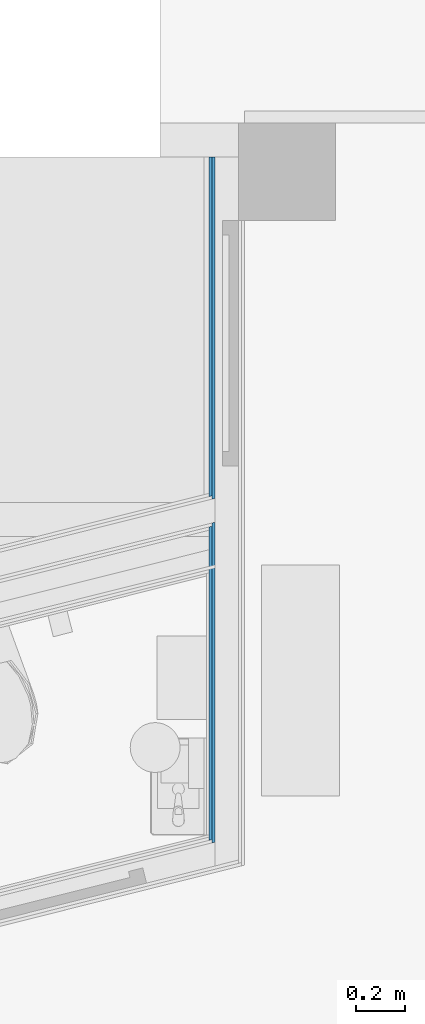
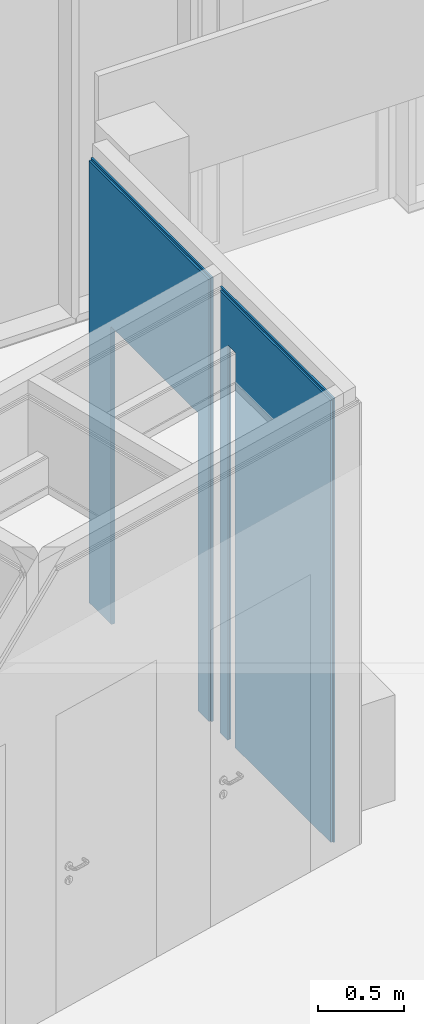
# One storey, part 57 of 153: 2 building element parts, 1 opening, 1 element without a shape of its own.
"""IFC2X3 building model written with IfcOpenShell, lengths in millimetres."""

from ifc_helpers import new_model, entity, si_unit, converted_unit, derived_unit, money_unit, direction, frame, origin_with_axes, place, context, subcontext, project, spatial, faceted_brep, material, type_object, element, aggregate, save


model = new_model("IFC2X3")

# Units and contexts
model_context = context("Model", 3, precision=0.01, world=origin_with_axes(), true_north=direction((0.0, 1.0)))
body_context = subcontext(model_context, "Body", "Model", "MODEL_VIEW")
ifc_project = project(units=[si_unit("LENGTHUNIT", "METRE", prefix="MILLI"), si_unit("AREAUNIT", "SQUARE_METRE"), si_unit("VOLUMEUNIT", "CUBIC_METRE"), converted_unit("PLANEANGLEUNIT", "DEGREE", entity("IfcPlaneAngleMeasure", 0.0174532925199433), si_unit("PLANEANGLEUNIT", "RADIAN"), dimensions=[0, 0, 0, 0, 0, 0, 0]), money_unit("EUR"), converted_unit("TIMEUNIT", "Year", entity("IfcTimeMeasure", 31557600.0), si_unit("TIMEUNIT", "SECOND"), dimensions=[0, 0, 1, 0, 0, 0, 0]), si_unit("MASSUNIT", "GRAM", prefix="KILO"), si_unit("THERMODYNAMICTEMPERATUREUNIT", "DEGREE_CELSIUS"), si_unit("LUMINOUSINTENSITYUNIT", "LUMEN"), si_unit("ENERGYUNIT", "JOULE", prefix="MEGA"), derived_unit("THERMALCONDUCTANCEUNIT", [(si_unit("POWERUNIT", "WATT"), 1), (si_unit("LENGTHUNIT", "METRE"), -1), (si_unit("THERMODYNAMICTEMPERATUREUNIT", "KELVIN"), -1)]), derived_unit("SPECIFICHEATCAPACITYUNIT", [(si_unit("ENERGYUNIT", "JOULE"), 1), (si_unit("MASSUNIT", "GRAM", prefix="KILO"), -1), (si_unit("THERMODYNAMICTEMPERATUREUNIT", "KELVIN"), -1)]), derived_unit("MASSDENSITYUNIT", [(si_unit("MASSUNIT", "GRAM", prefix="KILO"), 1), (si_unit("VOLUMEUNIT", "CUBIC_METRE"), -1)])], contexts=[model_context])

# Site, building, storey
site_placement = place(None, frame((0.0, 0.0, 8650.0), z_axis=(0.0, 0.0, 1.0), x_axis=(1.0, 0.0, 0.0)))
site = spatial("IfcSite", under=ifc_project, at=site_placement, Name="43301:001:0844", CompositionType="ELEMENT")
building_placement = place(site_placement, origin_with_axes())
building = spatial("IfcBuilding", under=site, at=building_placement, Name="Kuressaare Ametikooli tuulikute mehaanikute õppekorpus", CompositionType="ELEMENT")
storey_placement = place(building_placement, frame((0.0, 0.0, 4100.0), z_axis=(0.0, 0.0, 1.0), x_axis=(1.0, 0.0, 0.0)))
storey = spatial("IfcBuildingStorey", under=building, at=storey_placement, Name="2.korrus", CompositionType="ELEMENT", Elevation=4100.0)

# Wall, opening, building element parts
wall_type = type_object("IfcWallType", Name="SS-2.1 147", PredefinedType="NOTDEFINED")
wall_placement = place(storey_placement, frame((103693.9521417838, 23834.06964326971, 0.0), z_axis=(0.0, 0.0, 1.0), x_axis=(0.0, -1.0, 0.0)))
wall = element("IfcWall", 1, at=wall_placement, inside=storey, type_object=wall_type, Name="Sisesein")
opening_placement = place(wall_placement, frame((765.0007193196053, 0.0, 0.0), z_axis=(0.0, 0.0, 1.0), x_axis=(1.0, 0.0, 0.0)))
element("IfcOpeningElement", 2, at=opening_placement, cuts=wall, Name="PU10,EI30", context=body_context, shape_type="Brep", body=[
    faceted_brep([(-504.999999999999, -148.0000000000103, 2110.0), (-504.999999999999, -148.0000000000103, 0.0), (504.999999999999, -148.0000000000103, 0.0), (504.999999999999, -148.0000000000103, 2110.0), (-504.999999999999, 1.000000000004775, 2110.0), (-504.999999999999, 1.000000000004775, 0.0), (504.999999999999, 1.000000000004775, 0.0), (504.999999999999, 1.000000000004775, 2110.0)], [[[0, 1, 2, 3]], [[4, 5, 1, 0]], [[5, 6, 2, 1]], [[6, 7, 3, 2]], [[7, 4, 0, 3]], [[6, 5, 4, 7]]]),
])
ifc_material = material(Name="Kipsplaat")
building_element_part_1_placement = place(wall_placement, origin_with_axes())
building_element_part_1 = element("IfcBuildingElementPart", 3, at=building_element_part_1_placement, material=ifc_material, Name="Kipsplaat", context=body_context, shape_type="Brep", body=[
    faceted_brep([(1502.996928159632, -134.0000000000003, 3145.0), (1499.738557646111, -120.9999999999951, 3145.0), (1499.738557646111, -120.9999999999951, 0.0), (1502.996928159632, -134.0000000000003, 0.0), (2814.177990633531, -120.9999999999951, 3145.0), (2817.436359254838, -134.0000000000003, 3145.0), (2814.177990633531, -120.9999999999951, 0.0), (1688.398800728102, -120.9999999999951, 0.0), (1688.398800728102, -120.9999999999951, 2800.0), (1606.955108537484, -120.9999999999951, 2800.0), (1606.955108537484, -120.9999999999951, 0.0), (1610.213481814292, -134.0000000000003, 0.0), (1610.213481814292, -134.0000000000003, 2800.0), (1691.657174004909, -134.0000000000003, 2800.0), (1691.657174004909, -134.0000000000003, 0.0), (2817.436359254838, -134.0000000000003, 0.0)], [[[0, 1, 2, 3]], [[4, 1, 0, 5]], [[1, 4, 6, 7, 8, 9, 10, 2]], [[2, 10, 11, 3]], [[5, 0, 3, 11, 12, 13, 14, 15]], [[4, 5, 15, 6]], [[15, 14, 7, 6]], [[13, 8, 7, 14]], [[13, 12, 9, 8]], [[11, 10, 9, 12]]]),
    faceted_brep([(1270.000719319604, -120.9999999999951, 0.0), (1270.000719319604, -120.9999999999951, 2110.0), (260.0007193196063, -120.9999999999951, 2110.0), (260.0007193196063, -120.9999999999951, 0.0), (0.0, -120.9999999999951, 0.0), (0.0, -120.9999999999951, 3145.0), (1401.799945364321, -120.9999999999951, 3145.0), (1401.799945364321, -120.9999999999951, 0.0), (1270.000719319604, -134.0000000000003, 0.0), (1270.000719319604, -134.0000000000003, 2110.0), (260.0007193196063, -134.0000000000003, 2110.0), (260.0007193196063, -134.0000000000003, 0.0), (0.0, -134.0000000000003, 0.0), (0.0, -134.0000000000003, 3145.0), (1405.058315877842, -134.0000000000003, 3145.0), (1405.058315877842, -134.0000000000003, 0.0)], [[[0, 1, 2, 3, 4, 5, 6, 7]], [[1, 0, 8, 9]], [[2, 1, 9, 10]], [[3, 2, 10, 11]], [[3, 11, 12, 4]], [[5, 4, 12, 13]], [[5, 13, 14, 6]], [[14, 15, 7, 6]], [[8, 0, 7, 15]], [[9, 8, 15, 14, 13, 12, 11, 10]]]),
])
building_element_part_2_placement = place(wall_placement, origin_with_axes())
building_element_part_2 = element("IfcBuildingElementPart", 4, at=building_element_part_2_placement, material=ifc_material, Name="Kipsplaat", context=body_context, shape_type="Brep", body=[
    faceted_brep([(1519.657424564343, -147.0000000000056, 3129.999999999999), (1516.399054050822, -134.0000000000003, 3129.999999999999), (1516.399054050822, -134.0000000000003, 0.0), (1519.657424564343, -147.0000000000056, 0.0), (2804.034233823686, -134.0000000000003, 3129.999999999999), (2807.292602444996, -147.0000000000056, 3129.999999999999), (2804.034233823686, -134.0000000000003, 0.0), (1691.657174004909, -134.0000000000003, 0.0), (1691.657174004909, -134.0000000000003, 2800.0), (1610.213481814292, -134.0000000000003, 2800.0), (1610.213481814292, -134.0000000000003, 0.0), (1613.471855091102, -147.0000000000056, 0.0), (1613.471855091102, -147.0000000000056, 2800.0), (1694.91554728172, -147.0000000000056, 2800.0), (1694.91554728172, -147.0000000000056, 0.0), (2807.292602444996, -147.0000000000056, 0.0)], [[[0, 1, 2, 3]], [[4, 1, 0, 5]], [[1, 4, 6, 7, 8, 9, 10, 2]], [[2, 10, 11, 3]], [[5, 0, 3, 11, 12, 13, 14, 15]], [[4, 5, 15, 6]], [[15, 14, 7, 6]], [[13, 8, 7, 14]], [[13, 12, 9, 8]], [[11, 10, 9, 12]]]),
    faceted_brep([(1270.000719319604, -134.0000000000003, 0.0), (1270.000719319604, -134.0000000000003, 2110.0), (260.0007193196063, -134.0000000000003, 2110.0), (260.0007193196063, -134.0000000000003, 0.0), (0.0, -134.0000000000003, 0.0), (0.0, -134.0000000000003, 3129.999999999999), (1391.656189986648, -134.0000000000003, 3129.999999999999), (1391.656189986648, -134.0000000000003, 0.0), (1270.000719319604, -147.0000000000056, 0.0), (1270.000719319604, -147.0000000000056, 2110.0), (260.0007193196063, -147.0000000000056, 2110.0), (260.0007193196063, -147.0000000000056, 0.0), (0.0, -147.0000000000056, 0.0), (0.0, -147.0000000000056, 3129.999999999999), (1394.914560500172, -147.0000000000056, 3129.999999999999), (1394.914560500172, -147.0000000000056, 0.0)], [[[0, 1, 2, 3, 4, 5, 6, 7]], [[1, 0, 8, 9]], [[2, 1, 9, 10]], [[3, 2, 10, 11]], [[3, 11, 12, 4]], [[5, 4, 12, 13]], [[5, 13, 14, 6]], [[14, 15, 7, 6]], [[8, 0, 7, 15]], [[9, 8, 15, 14, 13, 12, 11, 10]]]),
])
aggregate(wall, [building_element_part_1, building_element_part_2])

save(model, "model.ifc")
